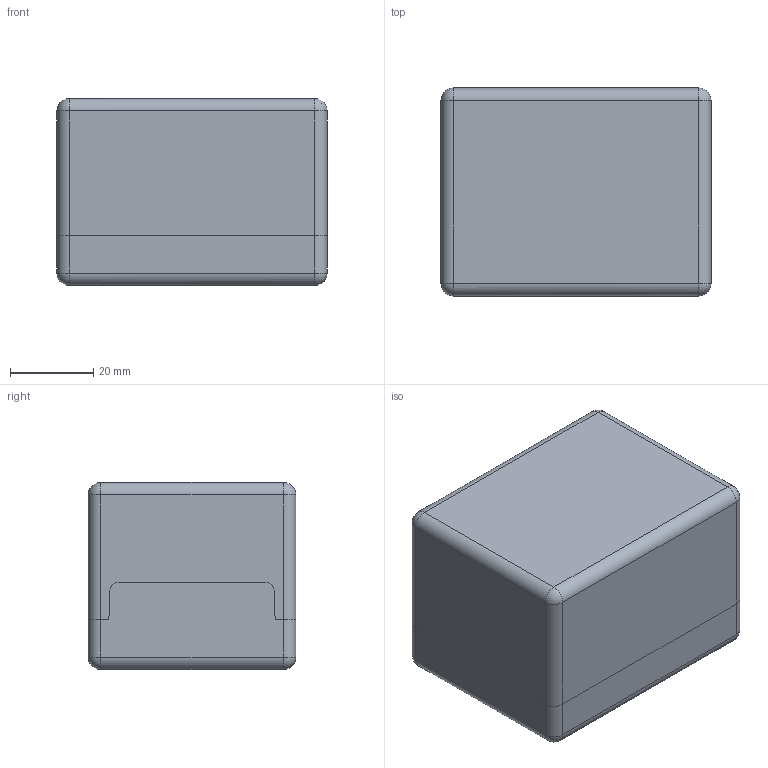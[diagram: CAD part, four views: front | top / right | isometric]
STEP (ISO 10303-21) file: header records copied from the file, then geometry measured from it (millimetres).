
FILE_DESCRIPTION(/* description */ ('','CAx-IF Rec.Pracs.---Representation and Presentation of Product Manufacturing Information (PMI)---4.0---2014-10-13'),/* implementation_level */ '2;1');
FILE_NAME(/* name */ 'E:\Eng\Customer Service\Drawings\MB\STEP\MB655045\MB655045.iam.stp',/* time_stamp */ '2018-08-03T10:03:15-04:00',/* author */ ('robin.rentz'),/* organization */ (''),/* preprocessor_version */ 'ST-DEVELOPER v17',/* originating_system */ 'Autodesk Inventor 2018',/* authorisation */ '');
FILE_SCHEMA (('AP242_MANAGED_MODEL_BASED_3D_ENGINEERING_MIM_LF { 1 0 10303 442 1 1 4 }'));
Length unit declared in the file: millimetre
Products named in the file (4): 0501100200-MBPO_655045; 0501101002-UT_655030-45; 0501100221-OT_655045; MB (M3 X 7mm PN)
Assembly tree (6 placements, depth 2):
  0501100200-MBPO_655045
    0501101002-UT_655030-45
    0501100221-OT_655045
    MB (M3 X 7mm PN)  x4
Bounding box: 65 x 50 x 45 mm (x, y, z)
Volume: 47900.3 mm3; surface area: 37489.8 mm2
Topology: 6 solids, 6 shells, 352 faces, 824 edges, 518 vertices
Faces by surface type: plane 220, cylinder 64, cone 52, sphere 12, torus 4
Full cylindrical faces by diameter (mm): 2.7 x8, 2.9 x4, 3 x4, 6 x12, 8.9 x4
Entity records: 7823 total; most frequent: DIRECTION 1418, CARTESIAN_POINT 1318, ORIENTED_EDGE 1206, EDGE_CURVE 603, AXIS2_PLACEMENT_3D 516, LINE 402, VECTOR 402, VERTEX_POINT 368
